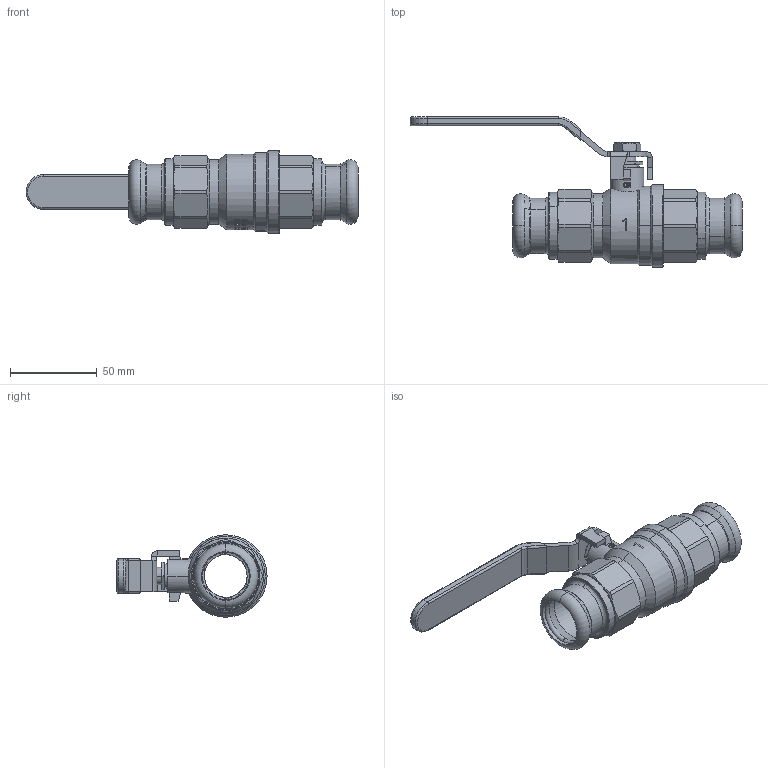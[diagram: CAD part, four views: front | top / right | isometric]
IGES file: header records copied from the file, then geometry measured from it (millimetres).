
Global section: file name: No Iges File Name specified; native system: AutoDesk Inventor R12.0; preprocessor: AutoDesk Inventor Iges Exporter R12.0; date: 20120118.124202; units: millimetre
Bounding box: 191.2 x 86.42 x 47.5 mm (x, y, z)
Volume: 103356.9 mm3; surface area: 49126.3 mm2
Topology: 1 solids, 1 shells, 675 faces, 2171 edges, 1608 vertices
Faces by surface type: plane 295, bspline 115, revolution 88, cylinder 86, cone 67, torus 24
